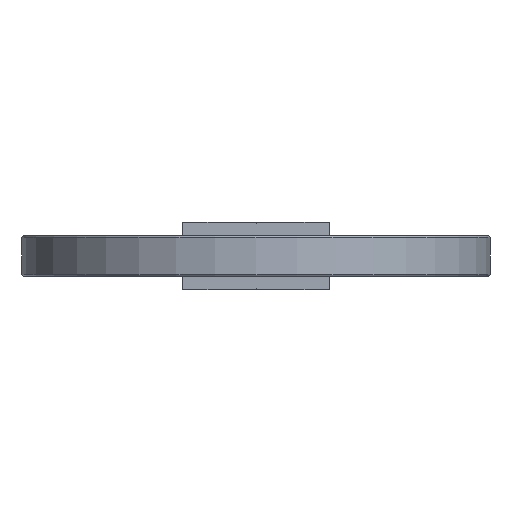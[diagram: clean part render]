
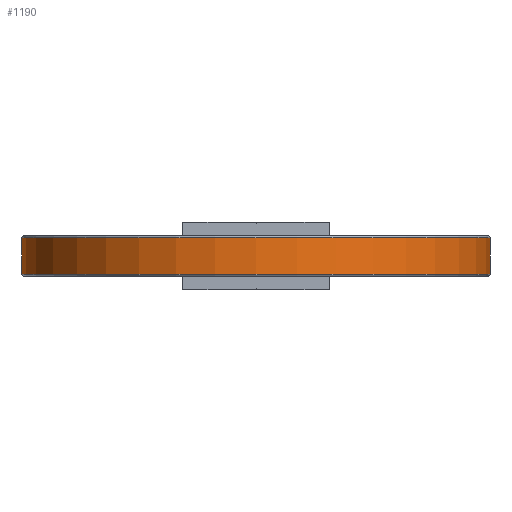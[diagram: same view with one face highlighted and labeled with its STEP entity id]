
A CAD part, front view. The second image highlights one B-rep face of the part: STEP entity #1190.
In plain terms, the highlighted cylindrical face has radius 57.3 mm (diameter 114.6 mm), a partial arc.
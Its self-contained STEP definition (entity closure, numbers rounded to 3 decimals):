
#521 = VERTEX_POINT ( 'NONE', #5443 ) ;
#535 = EDGE_CURVE ( 'NONE', #3609, #521, #4833, .T. ) ;
#659 = CARTESIAN_POINT ( 'NONE',  ( 0., 0., 10. ) ) ;
#781 = VERTEX_POINT ( 'NONE', #2626 ) ;
#1083 = DIRECTION ( 'NONE',  ( 0., 0., -1. ) ) ;
#1099 = CARTESIAN_POINT ( 'NONE',  ( 57.3, 0., 10. ) ) ;
#1190 = ADVANCED_FACE ( 'NONE', ( #1524 ), #3903, .T. ) ;
#1265 = EDGE_LOOP ( 'NONE', ( #2172, #4013, #4495, #5590 ) ) ;
#1523 = EDGE_CURVE ( 'NONE', #781, #5384, #3349, .T. ) ;
#1524 = FACE_OUTER_BOUND ( 'NONE', #1265, .T. ) ;
#1921 = CARTESIAN_POINT ( 'NONE',  ( -57.3, 0., 10. ) ) ;
#2087 = AXIS2_PLACEMENT_3D ( 'NONE', #2968, #3900, #3057 ) ;
#2172 = ORIENTED_EDGE ( 'NONE', *, *, #535, .F. ) ;
#2445 = DIRECTION ( 'NONE',  ( 0., 0., -1. ) ) ;
#2626 = CARTESIAN_POINT ( 'NONE',  ( -57.3, 0., 9.5 ) ) ;
#2815 = CARTESIAN_POINT ( 'NONE',  ( 57.3, 0., 9.5 ) ) ;
#2926 = VECTOR ( 'NONE', #2445, 1000. ) ;
#2968 = CARTESIAN_POINT ( 'NONE',  ( 0., 0., 9.5 ) ) ;
#3048 = AXIS2_PLACEMENT_3D ( 'NONE', #659, #5762, #3365 ) ;
#3057 = DIRECTION ( 'NONE',  ( 1., 0., 0. ) ) ;
#3349 = LINE ( 'NONE', #1921, #3686 ) ;
#3365 = DIRECTION ( 'NONE',  ( -1., 0., 0. ) ) ;
#3609 = VERTEX_POINT ( 'NONE', #2815 ) ;
#3686 = VECTOR ( 'NONE', #1083, 1000. ) ;
#3741 = DIRECTION ( 'NONE',  ( 1., 0., 0. ) ) ;
#3900 = DIRECTION ( 'NONE',  ( 0., 0., -1. ) ) ;
#3903 = CYLINDRICAL_SURFACE ( 'NONE', #3048, 57.3 ) ;
#4013 = ORIENTED_EDGE ( 'NONE', *, *, #4072, .T. ) ;
#4072 = EDGE_CURVE ( 'NONE', #3609, #781, #5004, .T. ) ;
#4073 = DIRECTION ( 'NONE',  ( 0., 0., 1. ) ) ;
#4495 = ORIENTED_EDGE ( 'NONE', *, *, #1523, .T. ) ;
#4833 = LINE ( 'NONE', #1099, #2926 ) ;
#5004 = CIRCLE ( 'NONE', #2087, 57.3 ) ;
#5011 = CIRCLE ( 'NONE', #5395, 57.3 ) ;
#5297 = CARTESIAN_POINT ( 'NONE',  ( -57.3, 0., 0.5 ) ) ;
#5384 = VERTEX_POINT ( 'NONE', #5297 ) ;
#5395 = AXIS2_PLACEMENT_3D ( 'NONE', #5596, #4073, #3741 ) ;
#5443 = CARTESIAN_POINT ( 'NONE',  ( 57.3, 0., 0.5 ) ) ;
#5590 = ORIENTED_EDGE ( 'NONE', *, *, #5674, .T. ) ;
#5596 = CARTESIAN_POINT ( 'NONE',  ( 0., 0., 0.5 ) ) ;
#5674 = EDGE_CURVE ( 'NONE', #5384, #521, #5011, .T. ) ;
#5762 = DIRECTION ( 'NONE',  ( 0., 0., -1. ) ) ;
